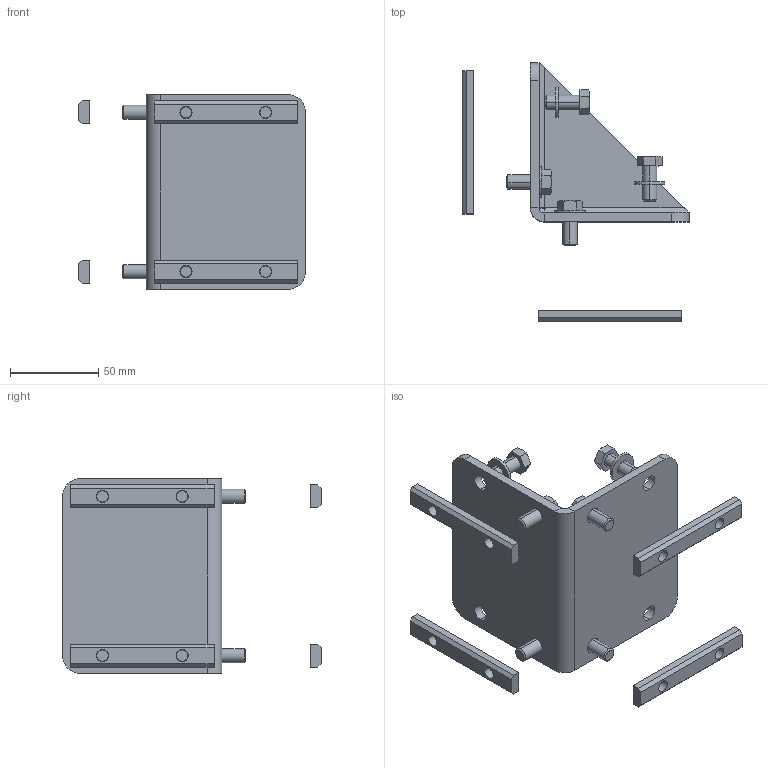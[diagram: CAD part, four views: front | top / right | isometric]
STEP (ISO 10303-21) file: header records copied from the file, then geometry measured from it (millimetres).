
FILE_DESCRIPTION (( 'STEP AP203' ), '1' );
FILE_NAME ('900.100.119.STEP', '2018-02-27T07:57:53', ( '' ), ( '' ), 'SwSTEP 2.0', 'SolidWorks 2016', '' );
FILE_SCHEMA (( 'CONFIG_CONTROL_DESIGN' ));
Length unit declared in the file: millimetre
Products named in the file (5): 900.100.119; 084.302.016; 900.100.014_Default<A macchina>; VITI TE UNI 5739_M8x20 UNI 5739; RONDELLE UNI 6592_8.4x17 UNI 6592
Assembly tree (21 placements, depth 2):
  900.100.119
    900.100.014_Default<A macchina>
    RONDELLE UNI 6592_8.4x17 UNI 6592  x8
    VITI TE UNI 5739_M8x20 UNI 5739  x8
    084.302.016  x4
Bounding box: 128.21 x 146.12 x 110 mm (x, y, z)
Volume: 149515 mm3; surface area: 76944.7 mm2
Topology: 24 solids, 24 shells, 309 faces, 681 edges, 426 vertices
Faces by surface type: plane 155, cylinder 88, cone 66
Entity records: 3878 total; most frequent: DIRECTION 533, CARTESIAN_POINT 533, ORIENTED_EDGE 450, EDGE_CURVE 225, AXIS2_PLACEMENT_3D 198, VERTEX_POINT 142, LINE 137, VECTOR 137
